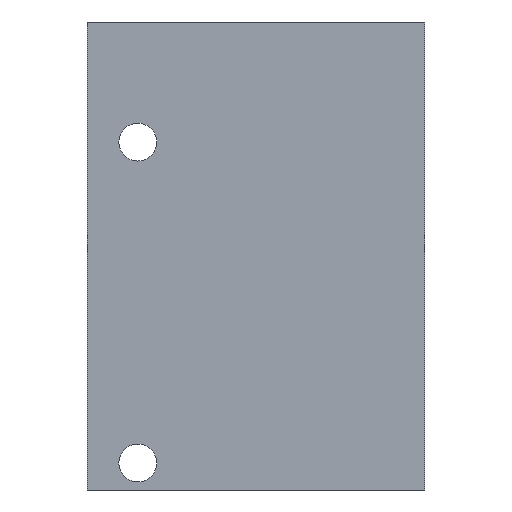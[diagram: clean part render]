
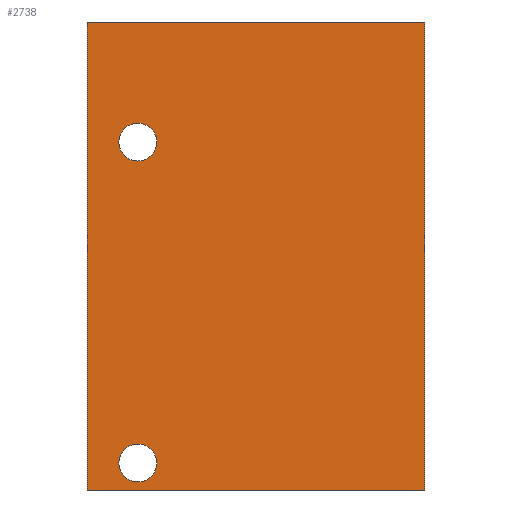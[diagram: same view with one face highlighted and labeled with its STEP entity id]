
A CAD part, front view. The second image highlights one B-rep face of the part: STEP entity #2738.
In plain terms, the highlighted planar face has unit normal (0, -1, 0).
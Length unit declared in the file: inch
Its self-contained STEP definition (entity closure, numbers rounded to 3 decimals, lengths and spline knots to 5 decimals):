
#94=CIRCLE('',#2882,0.14);
#96=CIRCLE('',#2885,0.14);
#244=FACE_BOUND('',#676,.T.);
#245=FACE_BOUND('',#677,.T.);
#246=FACE_BOUND('',#678,.T.);
#676=EDGE_LOOP('',(#2291));
#677=EDGE_LOOP('',(#2292));
#678=EDGE_LOOP('',(#2293,#2294,#2295,#2296));
#810=LINE('',#4053,#1010);
#950=LINE('',#4640,#1150);
#952=LINE('',#4830,#1152);
#954=LINE('',#4841,#1154);
#1010=VECTOR('',#3101,3.464);
#1150=VECTOR('',#3339,3.464);
#1152=VECTOR('',#3451,2.5);
#1154=VECTOR('',#3465,2.5);
#1208=VERTEX_POINT('',#4050);
#1209=VERTEX_POINT('',#4052);
#1320=VERTEX_POINT('',#4633);
#1323=VERTEX_POINT('',#4638);
#1339=VERTEX_POINT('',#4685);
#1341=VERTEX_POINT('',#4690);
#1477=EDGE_CURVE('',#1209,#1208,#810,.T.);
#1646=EDGE_CURVE('',#1323,#1320,#950,.T.);
#1662=EDGE_CURVE('',#1339,#1339,#94,.T.);
#1664=EDGE_CURVE('',#1341,#1341,#96,.T.);
#1679=EDGE_CURVE('',#1208,#1320,#952,.T.);
#1684=EDGE_CURVE('',#1323,#1209,#954,.T.);
#2291=ORIENTED_EDGE('',*,*,#1662,.T.);
#2292=ORIENTED_EDGE('',*,*,#1664,.T.);
#2293=ORIENTED_EDGE('',*,*,#1679,.T.);
#2294=ORIENTED_EDGE('',*,*,#1646,.F.);
#2295=ORIENTED_EDGE('',*,*,#1684,.T.);
#2296=ORIENTED_EDGE('',*,*,#1477,.T.);
#2460=PLANE('',#2925);
#2738=ADVANCED_FACE('',(#244,#245,#246),#2460,.T.);
#2882=AXIS2_PLACEMENT_3D('',#4686,#3398,#3399);
#2885=AXIS2_PLACEMENT_3D('',#4691,#3404,#3405);
#2925=AXIS2_PLACEMENT_3D('',#4857,#3488,#3489);
#3101=DIRECTION('',(0.,0.,-1.));
#3339=DIRECTION('',(0.,0.,-1.));
#3398=DIRECTION('center_axis',(0.,1.,0.));
#3399=DIRECTION('ref_axis',(1.,0.,0.));
#3404=DIRECTION('center_axis',(0.,1.,0.));
#3405=DIRECTION('ref_axis',(1.,0.,0.));
#3451=DIRECTION('',(1.,0.,0.));
#3465=DIRECTION('',(-1.,0.,0.));
#3488=DIRECTION('center_axis',(0.,-1.,0.));
#3489=DIRECTION('ref_axis',(0.,0.,-1.));
#4050=CARTESIAN_POINT('',(-1.25,-0.75,-3.464));
#4052=CARTESIAN_POINT('',(-1.25,-0.75,0.));
#4053=CARTESIAN_POINT('',(-1.25,-0.75,0.));
#4633=CARTESIAN_POINT('',(1.25,-0.75,-3.464));
#4638=CARTESIAN_POINT('',(1.25,-0.75,0.));
#4640=CARTESIAN_POINT('',(1.25,-0.75,0.));
#4685=CARTESIAN_POINT('',(-0.735,-0.75,-0.889));
#4686=CARTESIAN_POINT('Origin',(-0.875,-0.75,-0.889));
#4690=CARTESIAN_POINT('',(-0.735,-0.75,-3.264));
#4691=CARTESIAN_POINT('Origin',(-0.875,-0.75,-3.264));
#4830=CARTESIAN_POINT('',(1.25,-0.75,-3.464));
#4841=CARTESIAN_POINT('',(1.25,-0.75,0.));
#4857=CARTESIAN_POINT('Origin',(-1.25,-0.75,0.));
